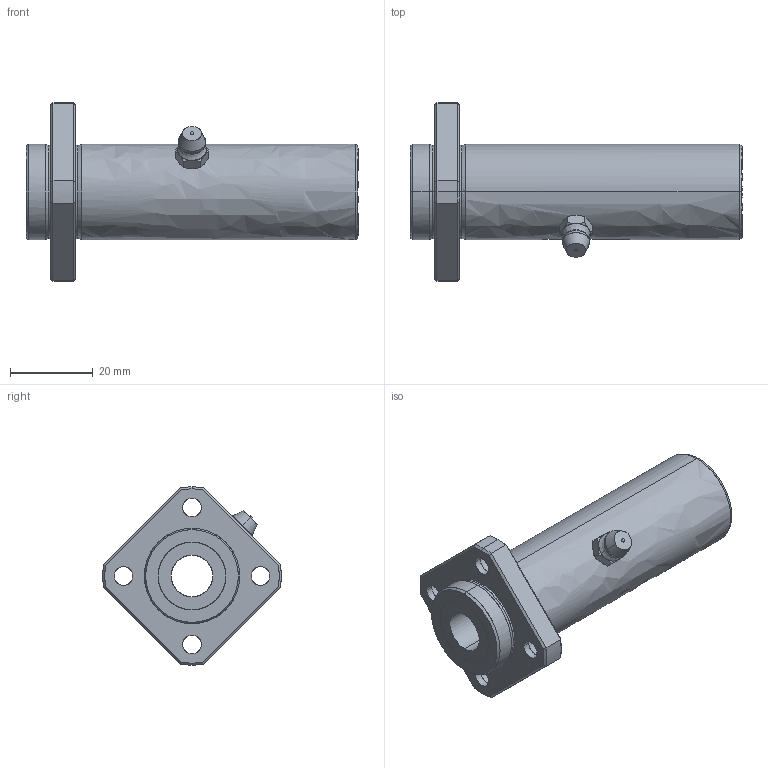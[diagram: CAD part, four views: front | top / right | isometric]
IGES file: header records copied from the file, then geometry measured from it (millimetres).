
Global section: file name: No Iges File Name specified; native system: AutoDesk Inventor R10; preprocessor: AutoDesk Inventor Iges Exporter R10; author: No Author specified; organization: No Organization specified; date: 20101211.163545; units: millimetre
Bounding box: 80 x 43 x 43 mm (x, y, z)
Surface area: 11241.6 mm2 (no closed solid volume)
Topology: 0 solids, 0 shells, 116 faces, 704 edges, 702 vertices
Faces by surface type: bspline 116
